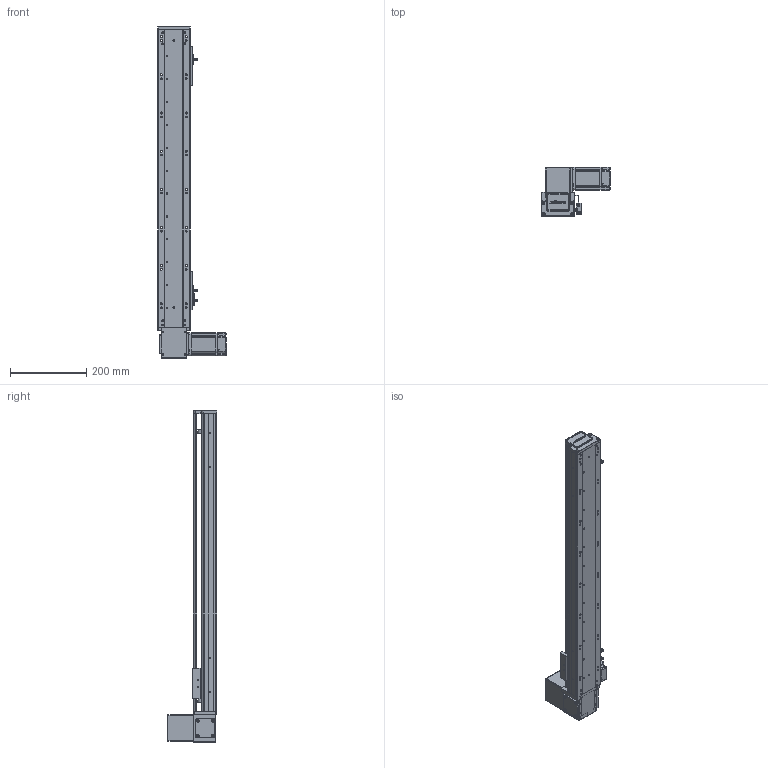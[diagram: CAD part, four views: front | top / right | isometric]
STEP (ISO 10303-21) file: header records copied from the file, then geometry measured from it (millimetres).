
FILE_DESCRIPTION (( 'STEP AP203' ), '1' );
FILE_NAME ('RY80-T-300-UR.SLDASM_600.step', '2021-03-01T02:26:05', ( '盈信电脑' ), ( '东莞市道滘镇水果街19号' ), 'SwSTEP 2.0', 'SolidWorks 2012', '' );
FILE_SCHEMA (( 'CONFIG_CONTROL_DESIGN' ));
Length unit declared in the file: millimetre
Products named in the file (20): RY80-T-300-UR.SLDASM_600; RY80-T萇儂假蚾啣; RY80-T-M4蹟翐2; RY80-T-上下折同步轮盖板; RY80-T肮祭謫奻殏俋欶; RY80-T翋肮祭謫裔啣; 1; RY80-T粣創揤踡輸; RY100-T粣創揤踡裔; RY80-T肮祭湍揤輸2; 滅袉蝶18-10; RY80-T-翋肮祭謫釱; RY80俋离覜茼え; RY80-T肮祭湍揤輸1; 覜茼ん672; RY80-T-300-UR倰第奻裔啣_600; 672嫖萇羲壽假蚾釱; RY80-T綴裔啣; RY80-T肮祭謫臏賑輸; RY80-T-300-UR倰第菁釱_600
Assembly tree (23 placements, depth 2):
  RY80-T-300-UR.SLDASM_600
    RY80-T-300-UR倰第菁釱_600
    RY80-T肮祭謫臏賑輸
    RY80-T-300-UR倰第奻裔啣_600
    RY80-T綴裔啣
    672嫖萇羲壽假蚾釱  x2
    覜茼ん672  x3
    RY80俋离覜茼え
    RY80-T-翋肮祭謫釱
    RY80-T肮祭湍揤輸1
    RY80-T肮祭湍揤輸2
    RY80-T粣創揤踡輸
    滅袉蝶18-10  x2
    RY100-T粣創揤踡裔
    RY80-T翋肮祭謫裔啣
    RY80-T-上下折同步轮盖板
    1
    RY80-T肮祭謫奻殏俋欶
    RY80-T-M4蹟翐2
    RY80-T萇儂假蚾啣
Bounding box: 180 x 130.5 x 870 mm (x, y, z)
Volume: 1670213.5 mm3; surface area: 683745.5 mm2
Topology: 23 solids, 23 shells, 2511 faces, 6925 edges, 4500 vertices
Faces by surface type: plane 1347, cylinder 967, cone 141, bspline 56
Entity records: 80408 total; most frequent: CARTESIAN_POINT 19594, ORIENTED_EDGE 12494, DIRECTION 11730, EDGE_CURVE 6247, VERTEX_POINT 4104, AXIS2_PLACEMENT_3D 3952, LINE 3826, VECTOR 3826
